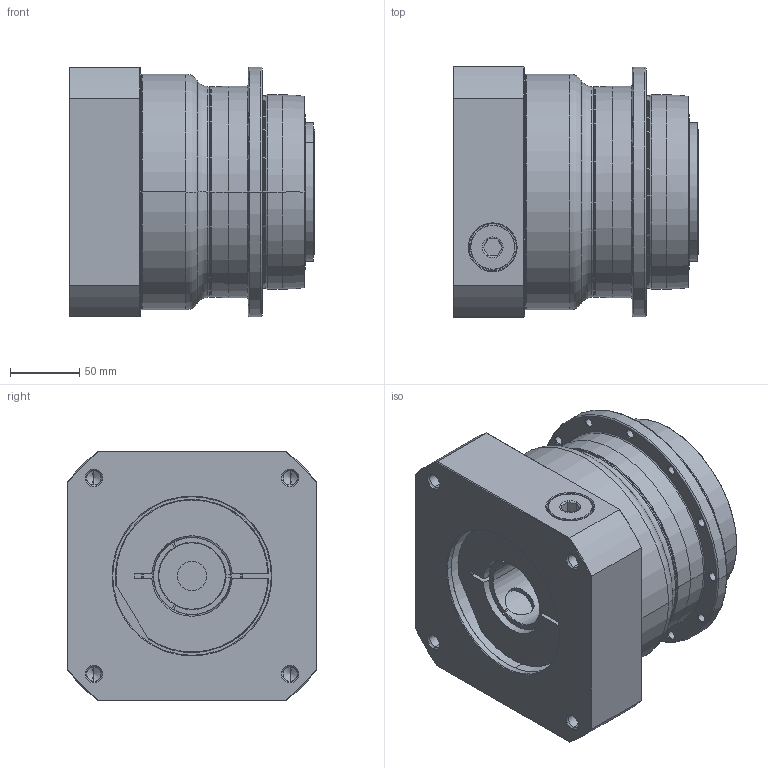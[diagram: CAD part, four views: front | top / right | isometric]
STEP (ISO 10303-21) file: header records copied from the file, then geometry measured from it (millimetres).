
FILE_DESCRIPTION((''),'2;1');
FILE_NAME('AH140_1ST_48-P0409B00101_ASM','2016-08-18T',('d00435'),(''),'PRO/ENGINEER BY PARAMETRIC TECHNOLOGY CORPORATION, 2008410','PRO/ENGINEER BY PARAMETRIC TECHNOLOGY CORPORATION, 2008410','');
FILE_SCHEMA(('CONFIG_CONTROL_DESIGN'));
Length unit declared in the file: millimetre
Products named in the file (8): P0278500003; P0359500003; P1318500601; P0409B00101; P0503B00016; P0912506201; 21711426021; AH140_1ST_48-P0409B00101_ASM
Assembly tree (7 placements, depth 2):
  AH140_1ST_48-P0409B00101_ASM
    P0278500003
    P0359500003
    P1318500601
    P0409B00101
    P0503B00016
    P0912506201
    21711426021
Bounding box: 177 x 180 x 180 mm (x, y, z)
Volume: 3299825 mm3; surface area: 423405 mm2
Topology: 8 solids, 32 shells, 611 faces, 1417 edges, 861 vertices
Faces by surface type: cylinder 256, cone 168, plane 117, torus 56, bspline 14
Entity records: 22165 total; most frequent: CARTESIAN_POINT 7864, DIRECTION 3269, ORIENTED_EDGE 2646, AXIS2_PLACEMENT_3D 1387, EDGE_CURVE 1371, VERTEX_POINT 861, CIRCLE 765, EDGE_LOOP 734
